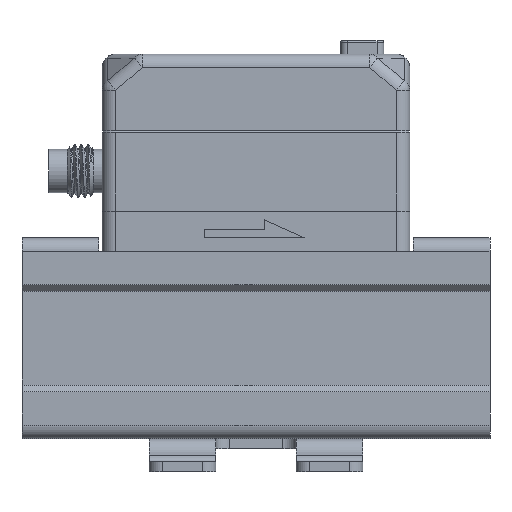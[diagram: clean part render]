
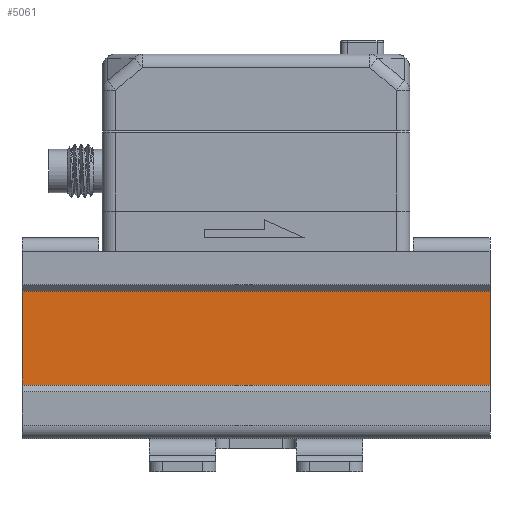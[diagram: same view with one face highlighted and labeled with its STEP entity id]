
A CAD part, front view. The second image highlights one B-rep face of the part: STEP entity #5061.
In plain terms, the highlighted planar face has unit normal (0, -1, 0).
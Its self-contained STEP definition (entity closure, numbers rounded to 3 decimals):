
#4058=FACE_OUTER_BOUND('',#9822,.T.);
#5061=ADVANCED_FACE('',(#4058),#5894,.F.);
#5894=PLANE('',#19412);
#6461=LINE('',#25972,#7848);
#6474=LINE('',#26001,#7861);
#6479=LINE('',#26017,#7866);
#6480=LINE('',#26018,#7867);
#7848=VECTOR('',#20910,1.);
#7861=VECTOR('',#20929,1.);
#7866=VECTOR('',#20950,1.);
#7867=VECTOR('',#20951,1.);
#9822=EDGE_LOOP('',(#11295,#11296,#11297,#11298));
#11295=ORIENTED_EDGE('',*,*,#16846,.T.);
#11296=ORIENTED_EDGE('',*,*,#16855,.F.);
#11297=ORIENTED_EDGE('',*,*,#16833,.T.);
#11298=ORIENTED_EDGE('',*,*,#16856,.T.);
#15301=VERTEX_POINT('',#25973);
#15302=VERTEX_POINT('',#25974);
#15313=VERTEX_POINT('',#26000);
#15314=VERTEX_POINT('',#26002);
#16833=EDGE_CURVE('',#15301,#15302,#6461,.T.);
#16846=EDGE_CURVE('',#15314,#15313,#6474,.T.);
#16855=EDGE_CURVE('',#15301,#15313,#6479,.T.);
#16856=EDGE_CURVE('',#15302,#15314,#6480,.T.);
#19412=AXIS2_PLACEMENT_3D('',#26019,#20952,#20953);
#20910=DIRECTION('',(-1.,0.,0.));
#20929=DIRECTION('',(1.,0.,0.));
#20950=DIRECTION('',(0.,0.,-1.));
#20951=DIRECTION('',(0.,0.,-1.));
#20952=DIRECTION('',(0.,1.,0.));
#20953=DIRECTION('',(0.,0.,-1.));
#25972=CARTESIAN_POINT('',(0.,-29.,22.));
#25973=CARTESIAN_POINT('',(70.,-29.,22.));
#25974=CARTESIAN_POINT('',(0.,-29.,22.));
#26000=CARTESIAN_POINT('',(70.,-29.,8.));
#26001=CARTESIAN_POINT('',(0.,-29.,8.));
#26002=CARTESIAN_POINT('',(0.,-29.,8.));
#26017=CARTESIAN_POINT('',(70.,-29.,30.));
#26018=CARTESIAN_POINT('',(0.,-29.,30.));
#26019=CARTESIAN_POINT('',(0.,-29.,30.));
